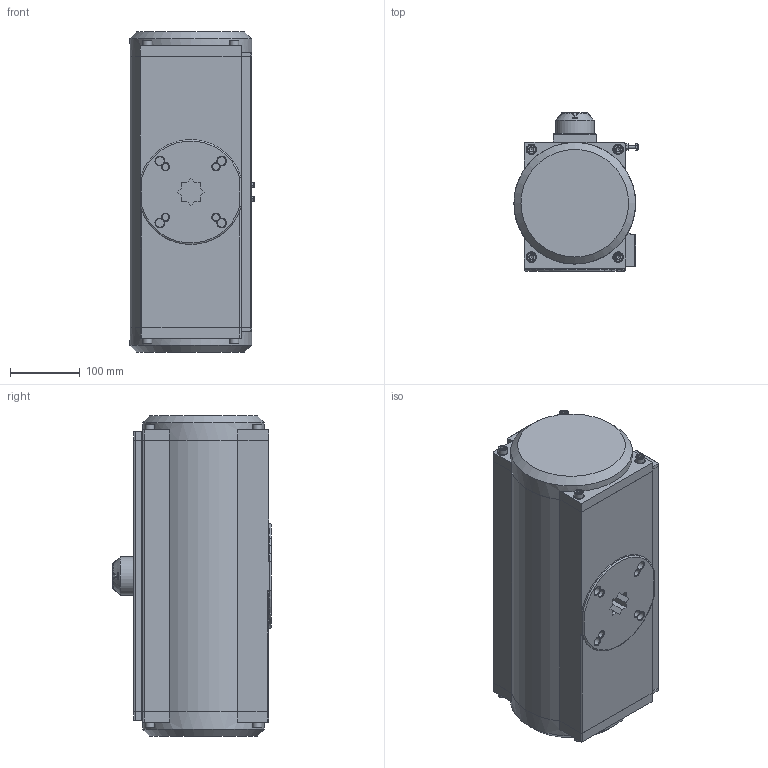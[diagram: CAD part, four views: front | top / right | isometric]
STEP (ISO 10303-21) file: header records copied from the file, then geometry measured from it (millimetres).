
FILE_DESCRIPTION(('STEP AP242'), '1');
FILE_NAME('PA-DA-160 砅槻斁瀔魤鍱 DN.ru', '2026-04-17T23:03:00', ('DN.ru'), (''), 'C3D Converter', 'C3D Toolkit', '');
FILE_SCHEMA(('AP242_MANAGED_MODEL_BASED_3D_ENGINEERING_MIM_LF { 1 0 10303 442 1 1 4 }'));
Length unit declared in the file: millimetre
Products named in the file (1): PA-DA-160
Bounding box: 177.5 x 227 x 458 mm (x, y, z)
Volume: 13243245.8 mm3; surface area: 480631 mm2
Topology: 1 solids, 4 shells, 1023 faces, 2675 edges, 1740 vertices
Faces by surface type: plane 461, extrusion 345, cylinder 113, cone 91, torus 13
Full cylindrical faces by diameter (mm): 4.724 x2, 5 x12, 6 x8, 8 x17, 10 x4, 12 x4, 13 x8, 15 x8, 55 x1, 100 x2, 174 x2
Entity records: 54717 total; most frequent: CARTESIAN_POINT 23752, ORIENTED_EDGE 5058, DIRECTION 3470, EDGE_CURVE 2529, VERTEX_POINT 1724, B_SPLINE_CURVE_WITH_KNOTS 1433, VECTOR 1428, EDGE_LOOP 1253
